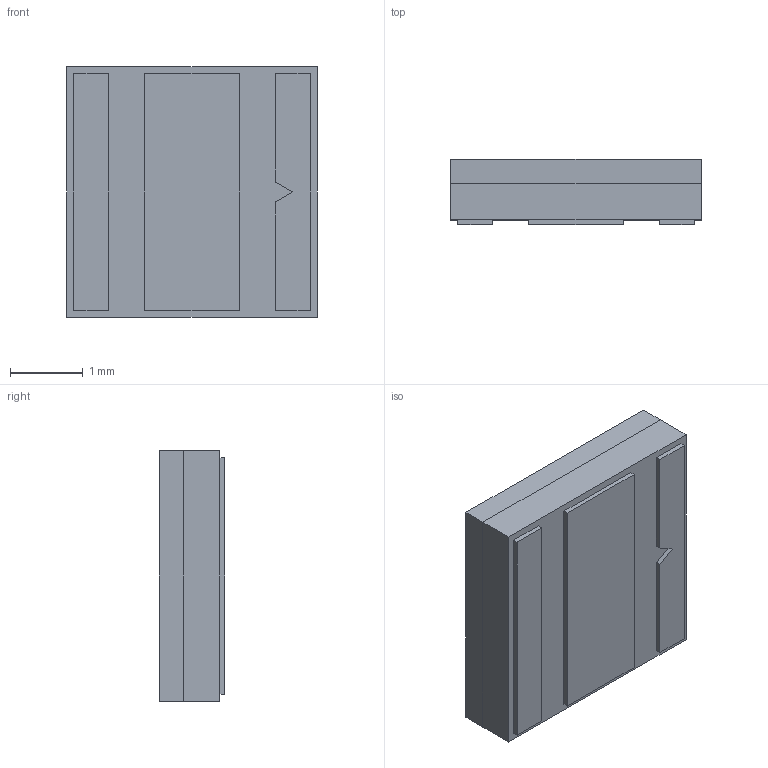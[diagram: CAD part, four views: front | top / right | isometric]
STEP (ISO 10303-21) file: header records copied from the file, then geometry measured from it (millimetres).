
FILE_DESCRIPTION (( 'STEP AP203' ), '1' );
FILE_NAME ('HM.STEP', '2024-01-18T08:05:56', ( '' ), ( '' ), 'SwSTEP 2.0', 'SolidWorks 2016', '' );
FILE_SCHEMA (( 'CONFIG_CONTROL_DESIGN' ));
Length unit declared in the file: millimetre
Products named in the file (1): HM
Bounding box: 3.45 x 0.9 x 3.45 mm (x, y, z)
Surface area: 82.5 mm2
Topology: 3 solids, 3 shells, 40 faces, 93 edges, 62 vertices
Faces by surface type: plane 40
Entity records: 1194 total; most frequent: CARTESIAN_POINT 196, ORIENTED_EDGE 186, DIRECTION 175, VECTOR 93, EDGE_CURVE 93, LINE 93, VERTEX_POINT 62, EDGE_LOOP 45
